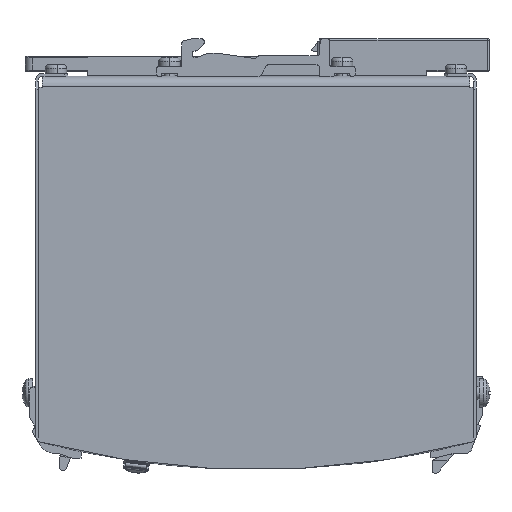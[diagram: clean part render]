
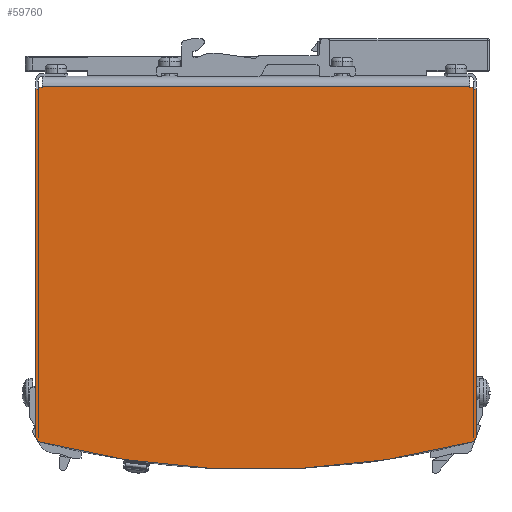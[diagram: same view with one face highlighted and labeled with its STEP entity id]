
A CAD part, left-side view. The second image highlights one B-rep face of the part: STEP entity #59760.
In plain terms, the highlighted planar face has unit normal (-1, 0, 0).
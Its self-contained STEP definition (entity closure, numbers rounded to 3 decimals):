
#71=CARTESIAN_POINT('',(-1.471,-0.039,5.177));
#72=DIRECTION('',(1.,0.,0.));
#73=DIRECTION('',(0.,-0.252,-0.968));
#74=AXIS2_PLACEMENT_3D('',#71,#72,#73);
#76=CARTESIAN_POINT('',(-1.471,2.333,-3.928));
#77=DIRECTION('',(-1.,0.,0.));
#78=DIRECTION('',(0.,1.,0.));
#79=AXIS2_PLACEMENT_3D('',#76,#77,#78);
#81=DIRECTION('',(0.,0.,-1.));
#82=VECTOR('',#81,3.844);
#83=CARTESIAN_POINT('',(-1.471,2.402,-0.085));
#84=LINE('',#83,#82);
#85=DIRECTION('',(0.,1.,0.));
#86=VECTOR('',#85,0.03);
#87=CARTESIAN_POINT('',(-1.471,2.373,-0.085));
#88=LINE('',#87,#86);
#89=DIRECTION('',(0.,0.,1.));
#90=VECTOR('',#89,3.844);
#91=CARTESIAN_POINT('',(-1.471,2.373,-3.928));
#92=LINE('',#91,#90);
#93=CARTESIAN_POINT('',(-1.471,2.333,-3.928));
#94=DIRECTION('',(1.,0.,0.));
#95=DIRECTION('',(0.,0.899,-0.437));
#96=AXIS2_PLACEMENT_3D('',#93,#94,#95);
#98=CARTESIAN_POINT('',(-1.471,2.349,-3.945));
#99=DIRECTION('',(-1.,0.,0.));
#100=DIRECTION('',(0.,1.,0.));
#101=AXIS2_PLACEMENT_3D('',#98,#99,#100);
#103=DIRECTION('',(0.,0.,-1.));
#104=VECTOR('',#103,3.882);
#105=CARTESIAN_POINT('',(-1.471,2.369,
-0.063));
#106=LINE('',#105,#104);
#107=DIRECTION('',(0.,1.,0.));
#108=VECTOR('',#107,0.039);
#109=CARTESIAN_POINT('',(-1.471,2.329,
-0.063));
#110=LINE('',#109,#108);
#111=DIRECTION('',(0.,0.,-1.));
#112=VECTOR('',#111,0.004);
#113=CARTESIAN_POINT('',(-1.471,2.329,
-0.059));
#114=LINE('',#113,#112);
#115=DIRECTION('',(0.,0.,1.));
#116=VECTOR('',#115,0.004);
#117=CARTESIAN_POINT('',(-1.471,-2.407,
-0.063));
#118=LINE('',#117,#116);
#119=DIRECTION('',(0.,1.,0.));
#120=VECTOR('',#119,0.039);
#121=CARTESIAN_POINT('',(-1.471,-2.446,
-0.063));
#122=LINE('',#121,#120);
#123=DIRECTION('',(0.,0.,1.));
#124=VECTOR('',#123,3.882);
#125=CARTESIAN_POINT('',(-1.471,-2.446,
-3.945));
#126=LINE('',#125,#124);
#127=CARTESIAN_POINT('',(-1.471,-2.427,
-3.945));
#128=DIRECTION('',(-1.,0.,0.));
#129=DIRECTION('',(0.,-0.999,-0.05));
#130=AXIS2_PLACEMENT_3D('',#127,#128,#129);
#132=CARTESIAN_POINT('',(-1.471,-2.411,
-3.928));
#133=DIRECTION('',(1.,0.,0.));
#134=DIRECTION('',(0.,-1.,0.));
#135=AXIS2_PLACEMENT_3D('',#132,#133,#134);
#137=DIRECTION('',(0.,0.,-1.));
#138=VECTOR('',#137,3.844);
#139=CARTESIAN_POINT('',(-1.471,-2.45,
-0.085));
#140=LINE('',#139,#138);
#141=CARTESIAN_POINT('',(-1.471,-2.411,
-3.928));
#142=DIRECTION('',(-1.,0.,0.));
#143=DIRECTION('',(0.,-0.252,-0.968));
#144=AXIS2_PLACEMENT_3D('',#141,#142,#143);
#4698=DIRECTION('',(0.,0.,-1.));
#4699=VECTOR('',#4698,3.844);
#4700=CARTESIAN_POINT('',(-1.471,-2.48,
-0.085));
#4701=LINE('',#4700,#4699);
#4712=DIRECTION('',(0.,-1.,0.));
#4713=VECTOR('',#4712,0.03);
#4714=CARTESIAN_POINT('',(-1.471,-2.45,
-0.085));
#4715=LINE('',#4714,#4713);
#18669=DIRECTION('',(0.,-1.,0.));
#18670=VECTOR('',#18669,4.736);
#18671=CARTESIAN_POINT('',(-1.471,2.329,
-0.059));
#18672=LINE('',#18671,#18670);
#46618=CARTESIAN_POINT('',(-1.471,2.329,
-0.059));
#46619=CARTESIAN_POINT('',(-1.471,-2.407,
-0.059));
#46620=VERTEX_POINT('',#46618);
#46621=VERTEX_POINT('',#46619);
#46634=CARTESIAN_POINT('',(-1.471,2.329,
-0.063));
#46635=VERTEX_POINT('',#46634);
#46636=CARTESIAN_POINT('',(-1.471,2.369,
-0.063));
#46637=VERTEX_POINT('',#46636);
#46638=CARTESIAN_POINT('',(-1.471,2.369,
-3.945));
#46639=VERTEX_POINT('',#46638);
#46640=CARTESIAN_POINT('',(-1.471,-2.446,
-3.945));
#46641=CARTESIAN_POINT('',(-1.471,-2.446,
-0.063));
#46642=VERTEX_POINT('',#46640);
#46643=VERTEX_POINT('',#46641);
#46644=CARTESIAN_POINT('',(-1.471,-2.407,
-0.063));
#46645=VERTEX_POINT('',#46644);
#49598=CARTESIAN_POINT('',(-1.471,2.351,
-3.995));
#49600=VERTEX_POINT('',#49598);
#49619=CARTESIAN_POINT('',(-1.471,-2.428,
-3.995));
#49620=VERTEX_POINT('',#49619);
#49648=CARTESIAN_POINT('',(-1.471,2.373,
-3.928));
#49649=VERTEX_POINT('',#49648);
#49656=CARTESIAN_POINT('',(-1.471,2.402,
-3.928));
#49657=VERTEX_POINT('',#49656);
#49678=CARTESIAN_POINT('',(-1.471,2.373,
-0.085));
#49679=VERTEX_POINT('',#49678);
#51364=CARTESIAN_POINT('',(-1.471,-2.45,
-3.928));
#51366=VERTEX_POINT('',#51364);
#51368=CARTESIAN_POINT('',(-1.471,-2.48,
-3.928));
#51369=VERTEX_POINT('',#51368);
#51372=CARTESIAN_POINT('',(-1.471,2.402,
-0.085));
#51373=VERTEX_POINT('',#51372);
#53078=CARTESIAN_POINT('',(-1.471,-2.45,
-0.085));
#53079=VERTEX_POINT('',#53078);
#54840=CARTESIAN_POINT('',(-1.471,-2.48,
-0.085));
#54841=VERTEX_POINT('',#54840);
#56728=CARTESIAN_POINT('',(-1.471,2.369,
-3.946));
#56729=VERTEX_POINT('',#56728);
#56730=CARTESIAN_POINT('',(-1.471,-2.446,
-3.946));
#56731=VERTEX_POINT('',#56730);
#59714=CARTESIAN_POINT('',(-1.471,2.349,
-3.945));
#59715=DIRECTION('',(1.,0.,0.));
#59716=DIRECTION('',(0.,0.,-1.));
#59717=AXIS2_PLACEMENT_3D('',#59714,#59715,#59716);
#59718=PLANE('',#59717);
#59720=ORIENTED_EDGE('',*,*,#59719,.T.);
#59722=ORIENTED_EDGE('',*,*,#59721,.F.);
#59724=ORIENTED_EDGE('',*,*,#59723,.F.);
#59726=ORIENTED_EDGE('',*,*,#59725,.F.);
#59728=ORIENTED_EDGE('',*,*,#59727,.F.);
#59730=ORIENTED_EDGE('',*,*,#59729,.F.);
#59732=ORIENTED_EDGE('',*,*,#59731,.F.);
#59734=ORIENTED_EDGE('',*,*,#59733,.F.);
#59736=ORIENTED_EDGE('',*,*,#59735,.F.);
#59738=ORIENTED_EDGE('',*,*,#59737,.F.);
#59740=ORIENTED_EDGE('',*,*,#59739,.T.);
#59742=ORIENTED_EDGE('',*,*,#59741,.F.);
#59744=ORIENTED_EDGE('',*,*,#59743,.F.);
#59746=ORIENTED_EDGE('',*,*,#59745,.F.);
#59748=ORIENTED_EDGE('',*,*,#59747,.F.);
#59750=ORIENTED_EDGE('',*,*,#59749,.F.);
#59751=ORIENTED_EDGE('',*,*,#57501,.F.);
#59753=ORIENTED_EDGE('',*,*,#59752,.T.);
#59755=ORIENTED_EDGE('',*,*,#59754,.T.);
#59757=ORIENTED_EDGE('',*,*,#59756,.F.);
#59758=EDGE_LOOP('',(#59720,#59722,#59724,#59726,#59728,#59730,#59732,#59734,
#59736,#59738,#59740,#59742,#59744,#59746,#59748,#59750,#59751,#59753,#59755,
#59757));
#59759=FACE_OUTER_BOUND('',#59758,.F.);
#59760=ADVANCED_FACE('',(#59759),#59718,.F.);
#75=CIRCLE('',#74,9.478);
#80=CIRCLE('',#79,0.069);
#97=CIRCLE('',#96,0.039);
#102=CIRCLE('',#101,0.02);
#131=CIRCLE('',#130,0.02);
#136=CIRCLE('',#135,0.039);
#145=CIRCLE('',#144,0.069);
#57501=EDGE_CURVE('',#53079,#51366,#140,.T.);
#59719=EDGE_CURVE('',#49620,#49600,#75,.T.);
#59721=EDGE_CURVE('',#49657,#49600,#80,.T.);
#59723=EDGE_CURVE('',#51373,#49657,#84,.T.);
#59725=EDGE_CURVE('',#49679,#51373,#88,.T.);
#59727=EDGE_CURVE('',#49649,#49679,#92,.T.);
#59729=EDGE_CURVE('',#56729,#49649,#97,.T.);
#59731=EDGE_CURVE('',#46639,#56729,#102,.T.);
#59733=EDGE_CURVE('',#46637,#46639,#106,.T.);
#59735=EDGE_CURVE('',#46635,#46637,#110,.T.);
#59737=EDGE_CURVE('',#46620,#46635,#114,.T.);
#59739=EDGE_CURVE('',#46620,#46621,#18672,.T.);
#59741=EDGE_CURVE('',#46645,#46621,#118,.T.);
#59743=EDGE_CURVE('',#46643,#46645,#122,.T.);
#59745=EDGE_CURVE('',#46642,#46643,#126,.T.);
#59747=EDGE_CURVE('',#56731,#46642,#131,.T.);
#59749=EDGE_CURVE('',#51366,#56731,#136,.T.);
#59752=EDGE_CURVE('',#53079,#54841,#4715,.T.);
#59754=EDGE_CURVE('',#54841,#51369,#4701,.T.);
#59756=EDGE_CURVE('',#49620,#51369,#145,.T.);
